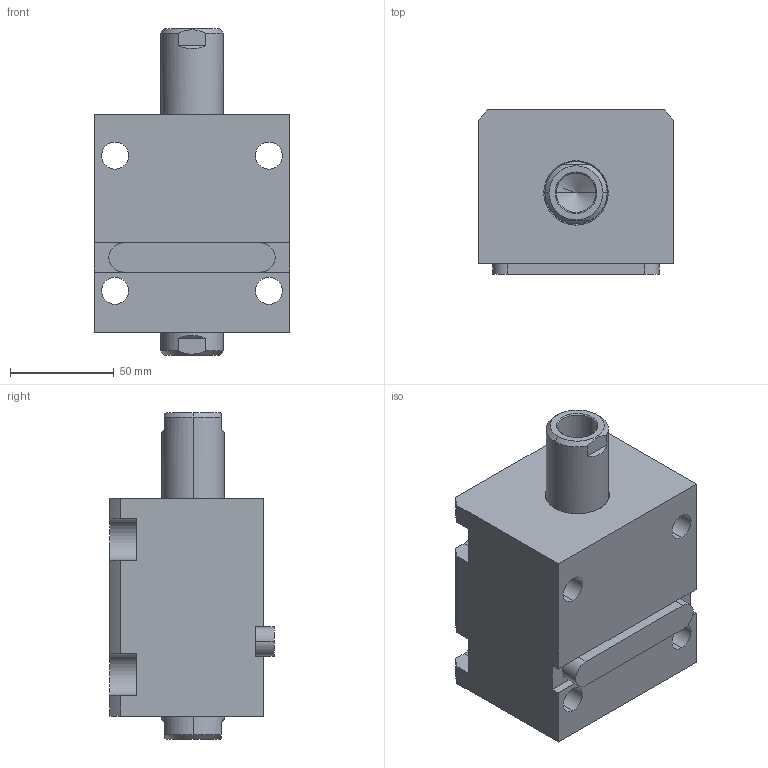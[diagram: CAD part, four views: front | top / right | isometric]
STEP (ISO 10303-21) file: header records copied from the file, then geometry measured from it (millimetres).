
FILE_DESCRIPTION (( 'STEP AP203' ), '1' );
FILE_NAME ('CHTB-LW50-30N.STEP', '2018-05-18T02:35:41', ( '' ), ( '' ), 'SwSTEP 2.0', 'SolidWorks 2015', '' );
FILE_SCHEMA (( 'CONFIG_CONTROL_DESIGN' ));
Length unit declared in the file: millimetre
Products named in the file (4): CHTB-LW50-30N; 掛极LW50-30N; CHTM-SDMA50QG; 活塞杆LW50-30N
Assembly tree (3 placements, depth 2):
  CHTB-LW50-30N
    掛极LW50-30N
    活塞杆LW50-30N
    CHTM-SDMA50QG
Bounding box: 94 x 79 x 157 mm (x, y, z)
Volume: 656632.3 mm3; surface area: 114447.6 mm2
Topology: 3 solids, 3 shells, 221 faces, 588 edges, 385 vertices
Faces by surface type: cylinder 102, plane 58, cone 31, torus 16, bspline 14
Entity records: 11831 total; most frequent: CARTESIAN_POINT 6126, ORIENTED_EDGE 1160, DIRECTION 1056, EDGE_CURVE 580, AXIS2_PLACEMENT_3D 416, VERTEX_POINT 385, EDGE_LOOP 257, VECTOR 224
